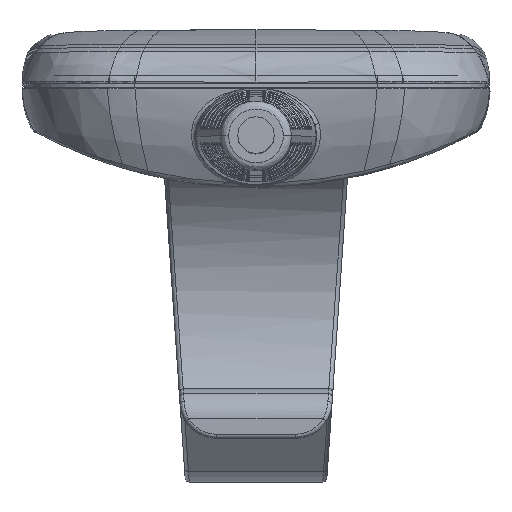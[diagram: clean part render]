
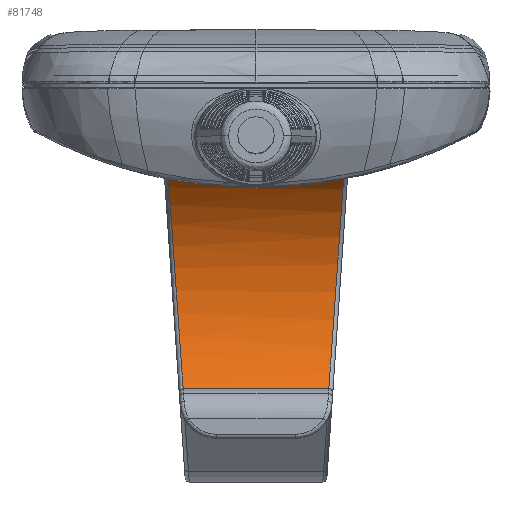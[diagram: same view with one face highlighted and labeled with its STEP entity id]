
A CAD part, top view. The second image highlights one B-rep face of the part: STEP entity #81748.
In plain terms, the highlighted cylindrical face has radius 20 mm (diameter 40 mm), a partial arc.
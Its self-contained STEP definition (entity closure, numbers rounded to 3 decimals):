
#23554=CARTESIAN_POINT('',(11.,-26.,-72.));
#23555=DIRECTION('',(-1.,0.,0.));
#23556=DIRECTION('',(0.,0.913,-0.408));
#23557=AXIS2_PLACEMENT_3D('',#23554,#23555,#23556);
#23559=CARTESIAN_POINT('',(11.,-8.411,
-81.52));
#23560=CARTESIAN_POINT('',(11.,-8.613,
-81.894));
#23561=CARTESIAN_POINT('',(10.996,-9.024,
-82.597));
#23562=CARTESIAN_POINT('',(10.974,-9.685,
-83.587));
#23563=CARTESIAN_POINT('',(10.947,-10.147,
-84.199));
#23564=CARTESIAN_POINT('',(10.931,-10.382,
-84.493));
#23566=CARTESIAN_POINT('',(10.931,-10.382,
-84.493));
#23567=CARTESIAN_POINT('',(10.872,-11.211,
-85.53));
#23568=CARTESIAN_POINT('',(10.748,-12.984,
-87.342));
#23569=CARTESIAN_POINT('',(10.531,-16.069,
-89.486));
#23570=CARTESIAN_POINT('',(10.289,-19.498,
-91.044));
#23571=CARTESIAN_POINT('',(10.02,-23.319,
-91.956));
#23572=CARTESIAN_POINT('',(9.735,-27.37,
-92.09));
#23573=CARTESIAN_POINT('',(9.453,-31.378,
-91.405));
#23574=CARTESIAN_POINT('',(9.187,-35.165,
-89.93));
#23575=CARTESIAN_POINT('',(8.947,-38.577,
-87.726));
#23576=CARTESIAN_POINT('',(8.743,-41.478,
-84.88));
#23577=CARTESIAN_POINT('',(8.583,-43.749,
-81.511));
#23578=CARTESIAN_POINT('',(8.474,-45.296,
-77.755));
#23579=CARTESIAN_POINT('',(8.431,-45.915,
-74.518));
#23580=CARTESIAN_POINT('',(8.425,-46.,
-72.586));
#23581=CARTESIAN_POINT('',(8.425,-46.,
-72.));
#23583=CARTESIAN_POINT('',(8.425,-46.,
-72.));
#23584=CARTESIAN_POINT('',(8.425,-46.,
-71.245));
#23585=CARTESIAN_POINT('',(8.433,-45.88,
-69.126));
#23586=CARTESIAN_POINT('',(8.465,-45.424,
-67.042));
#23587=CARTESIAN_POINT('',(8.495,-44.997,
-65.747));
#23589=CARTESIAN_POINT('',(-8.495,-44.997,
-65.747));
#23590=CARTESIAN_POINT('',(-8.465,-45.43,
-67.062));
#23591=CARTESIAN_POINT('',(-8.433,-45.884,
-69.147));
#23592=CARTESIAN_POINT('',(-8.425,-46.,
-71.267));
#23593=CARTESIAN_POINT('',(-8.425,-46.,
-72.));
#23595=CARTESIAN_POINT('',(-8.425,-46.,
-72.));
#23596=CARTESIAN_POINT('',(-8.425,-46.,
-72.559));
#23597=CARTESIAN_POINT('',(-8.43,-45.923,
-74.391));
#23598=CARTESIAN_POINT('',(-8.47,-45.358,
-77.512));
#23599=CARTESIAN_POINT('',(-8.571,-43.916,
-81.182));
#23600=CARTESIAN_POINT('',(-8.724,-41.75,
-84.539));
#23601=CARTESIAN_POINT('',(-8.92,-38.964,
-87.402));
#23602=CARTESIAN_POINT('',(-9.152,-35.667,
-89.659));
#23603=CARTESIAN_POINT('',(-9.41,-31.99,
-91.22));
#23604=CARTESIAN_POINT('',(-9.686,-28.075,
-92.025));
#23605=CARTESIAN_POINT('',(-9.967,-24.076,
-92.04));
#23606=CARTESIAN_POINT('',(-10.243,-20.15,
-91.264));
#23607=CARTESIAN_POINT('',(-10.503,-16.456,
-89.726));
#23608=CARTESIAN_POINT('',(-10.738,-13.117,
-87.475));
#23609=CARTESIAN_POINT('',(-10.871,-11.228,
-85.55));
#23610=CARTESIAN_POINT('',(-10.931,-10.382,
-84.493));
#23612=CARTESIAN_POINT('',(-10.931,-10.382,
-84.493));
#23613=CARTESIAN_POINT('',(-10.949,-10.118,
-84.163));
#23614=CARTESIAN_POINT('',(-10.976,-9.63,
-83.512));
#23615=CARTESIAN_POINT('',(-10.996,-8.975,
-82.517));
#23616=CARTESIAN_POINT('',(-11.,-8.591,
-81.853));
#23617=CARTESIAN_POINT('',(-11.,-8.411,
-81.52));
#23711=CARTESIAN_POINT('',(-11.,-26.,-72.));
#23712=DIRECTION('',(-1.,0.,0.));
#23713=DIRECTION('',(0.,0.913,-0.408));
#23714=AXIS2_PLACEMENT_3D('',#23711,#23712,#23713);
#23744=DIRECTION('',(1.,0.,0.));
#23745=VECTOR('',#23744,16.99);
#23746=CARTESIAN_POINT('',(-8.495,-44.997,
-65.747));
#23747=LINE('',#23746,#23745);
#24394=CARTESIAN_POINT('',(11.,-7.742,
-80.163));
#24395=CARTESIAN_POINT('',(9.737,-7.839,
-80.381));
#24396=CARTESIAN_POINT('',(6.779,-7.995,
-80.712));
#24397=CARTESIAN_POINT('',(0.308,-8.154,
-81.03));
#24398=CARTESIAN_POINT('',(-5.982,-8.03,
-80.782));
#24399=CARTESIAN_POINT('',(-9.418,-7.854,
-80.414));
#24400=CARTESIAN_POINT('',(-11.,-7.742,
-80.163));
#34008=CARTESIAN_POINT('',(11.,-7.742,-80.163));
#34009=VERTEX_POINT('',#34008);
#34010=CARTESIAN_POINT('',(11.,-8.411,-81.52));
#34011=VERTEX_POINT('',#34010);
#34012=VERTEX_POINT('',#23564);
#34013=VERTEX_POINT('',#23581);
#34014=VERTEX_POINT('',#23587);
#34015=VERTEX_POINT('',#23589);
#34016=VERTEX_POINT('',#23593);
#34017=VERTEX_POINT('',#23610);
#34018=VERTEX_POINT('',#23617);
#34033=CARTESIAN_POINT('',(-11.,-7.742,-80.163));
#34034=VERTEX_POINT('',#34033);
#81722=CARTESIAN_POINT('',(-11.44,-26.,-72.));
#81723=DIRECTION('',(1.,0.,0.));
#81724=DIRECTION('',(0.,-1.,0.));
#81725=AXIS2_PLACEMENT_3D('',#81722,#81723,#81724);
#81726=CYLINDRICAL_SURFACE('',#81725,20.);
#81727=ORIENTED_EDGE('',*,*,#81713,.T.);
#81729=ORIENTED_EDGE('',*,*,#81728,.T.);
#81731=ORIENTED_EDGE('',*,*,#81730,.T.);
#81733=ORIENTED_EDGE('',*,*,#81732,.T.);
#81735=ORIENTED_EDGE('',*,*,#81734,.F.);
#81737=ORIENTED_EDGE('',*,*,#81736,.T.);
#81739=ORIENTED_EDGE('',*,*,#81738,.T.);
#81741=ORIENTED_EDGE('',*,*,#81740,.T.);
#81743=ORIENTED_EDGE('',*,*,#81742,.F.);
#81745=ORIENTED_EDGE('',*,*,#81744,.F.);
#81746=EDGE_LOOP('',(#81727,#81729,#81731,#81733,#81735,#81737,#81739,#81741,
#81743,#81745));
#81747=FACE_OUTER_BOUND('',#81746,.F.);
#81748=ADVANCED_FACE('',(#81747),#81726,.F.);
#23558=CIRCLE('',#23557,20.);
#23565=B_SPLINE_CURVE_WITH_KNOTS('',3,(#23559,#23560,#23561,#23562,#23563,
#23564),.UNSPECIFIED.,.F.,.F.,(4,1,1,4),(0.,0.356,
0.683,1.),.UNSPECIFIED.);
#23582=B_SPLINE_CURVE_WITH_KNOTS('',3,(#23566,#23567,#23568,#23569,#23570,
#23571,#23572,#23573,#23574,#23575,#23576,#23577,#23578,#23579,#23580,#23581),
.UNSPECIFIED.,.F.,.F.,(4,1,1,1,1,1,1,1,1,1,1,1,1,4),(0.,0.081,
0.153,0.228,0.309,0.391,
0.473,0.555,0.637,0.719,
0.801,0.883,0.964,1.),.UNSPECIFIED.);
#23588=B_SPLINE_CURVE_WITH_KNOTS('',3,(#23583,#23584,#23585,#23586,#23587),
.UNSPECIFIED.,.F.,.F.,(4,1,4),(0.,0.356,1.),.UNSPECIFIED.);
#23594=B_SPLINE_CURVE_WITH_KNOTS('',3,(#23589,#23590,#23591,#23592,#23593),
.UNSPECIFIED.,.F.,.F.,(4,1,4),(0.,0.654,1.),.UNSPECIFIED.);
#23611=B_SPLINE_CURVE_WITH_KNOTS('',3,(#23595,#23596,#23597,#23598,#23599,
#23600,#23601,#23602,#23603,#23604,#23605,#23606,#23607,#23608,#23609,#23610),
.UNSPECIFIED.,.F.,.F.,(4,1,1,1,1,1,1,1,1,1,1,1,1,4),(0.,0.034,
0.111,0.192,0.272,0.353,
0.433,0.514,0.595,0.675,
0.756,0.837,0.918,1.),.UNSPECIFIED.);
#23618=B_SPLINE_CURVE_WITH_KNOTS('',3,(#23612,#23613,#23614,#23615,#23616,
#23617),.UNSPECIFIED.,.F.,.F.,(4,1,1,4),(0.,0.356,
0.683,1.),.UNSPECIFIED.);
#23715=CIRCLE('',#23714,20.);
#24401=B_SPLINE_CURVE_WITH_KNOTS('',3,(#24394,#24395,#24396,#24397,#24398,
#24399,#24400),.UNSPECIFIED.,.F.,.F.,(4,1,1,1,4),(0.,0.25,0.5,0.75,
1.),.UNSPECIFIED.);
#81713=EDGE_CURVE('',#34009,#34011,#23558,.T.);
#81728=EDGE_CURVE('',#34011,#34012,#23565,.T.);
#81730=EDGE_CURVE('',#34012,#34013,#23582,.T.);
#81732=EDGE_CURVE('',#34013,#34014,#23588,.T.);
#81734=EDGE_CURVE('',#34015,#34014,#23747,.T.);
#81736=EDGE_CURVE('',#34015,#34016,#23594,.T.);
#81738=EDGE_CURVE('',#34016,#34017,#23611,.T.);
#81740=EDGE_CURVE('',#34017,#34018,#23618,.T.);
#81742=EDGE_CURVE('',#34034,#34018,#23715,.T.);
#81744=EDGE_CURVE('',#34009,#34034,#24401,.T.);
